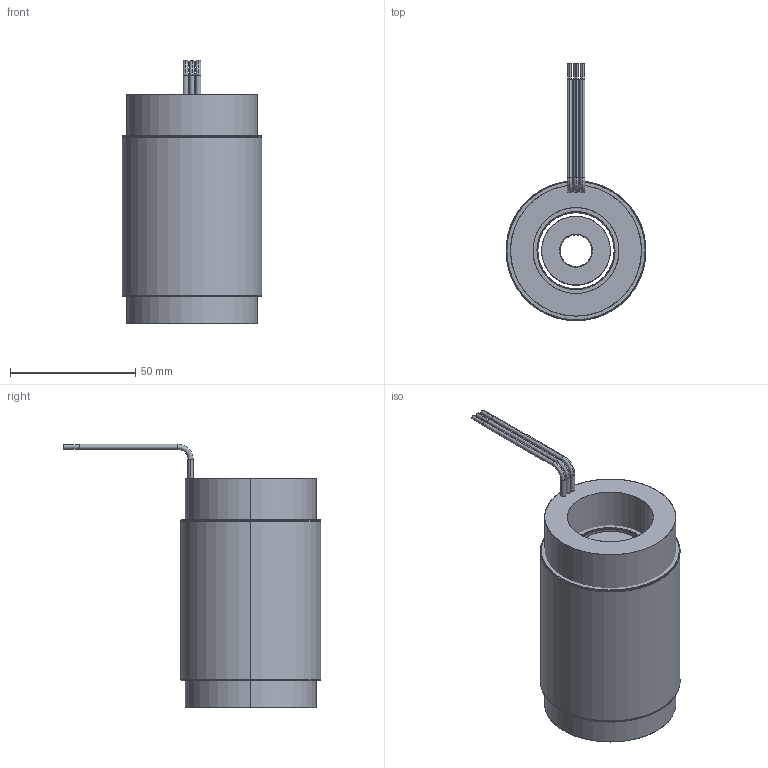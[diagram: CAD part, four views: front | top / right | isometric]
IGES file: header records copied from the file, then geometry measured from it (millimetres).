
Start section: SolidWorks IGES file using analytic representation for surfaces
Global section: file name: \\fs01.aveox.local\user documents\eng\My Documents\STANDARD STATOR ROTOR SETS\Standard rotor and stator set released\2.2 inch stator diameter\6100252-06.IGS; native system: SolidWorks 2016; preprocessor: SolidWorks 2016; author: eng; date: 191111.085827; units: millimetre
Bounding box: 55.85 x 102.72 x 105.28 mm (x, y, z)
Surface area: 71965.1 mm2 (no closed solid volume)
Topology: 0 solids, 0 shells, 84 faces, 2220 edges, 2220 vertices
Faces by surface type: revolution 50, bspline 34
